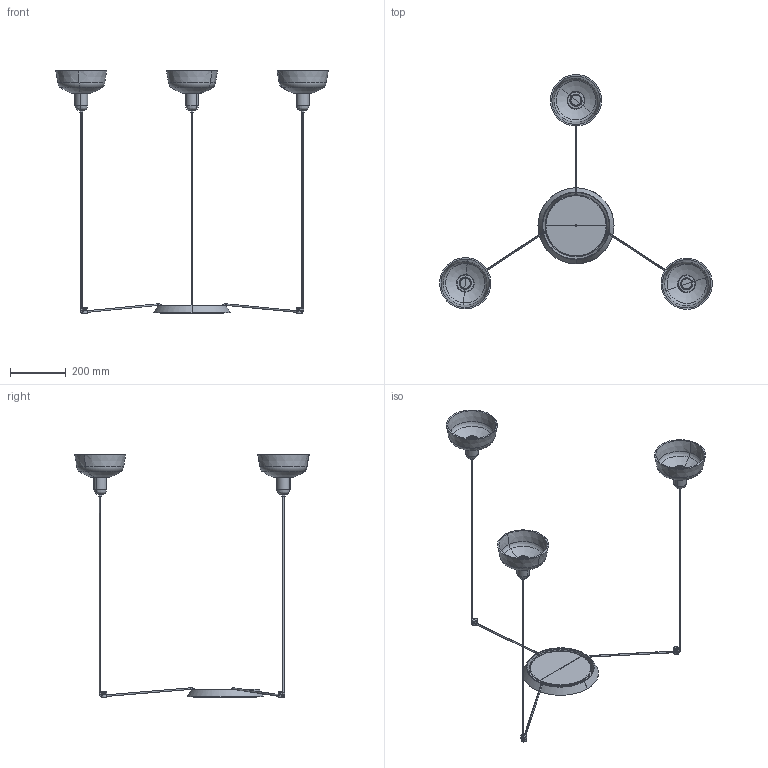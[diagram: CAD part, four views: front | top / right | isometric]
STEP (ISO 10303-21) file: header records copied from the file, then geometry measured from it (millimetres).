
FILE_DESCRIPTION(/* description */ (''),/* implementation_level */ '2;1');
FILE_NAME(/* name */ '20340-116-3L.step',/* time_stamp */ '2024-05-29T15:33:42+02:00',/* author */ ('RenataManzini'),/* organization */ (''),/* preprocessor_version */ 'ST-DEVELOPER v20',/* originating_system */ 'AutoCAD Mechanical',/* authorisation */ '');
FILE_SCHEMA (('AUTOMOTIVE_DESIGN { 1 0 10303 214 3 1 1 }'));
Length unit declared in the file: millimetre
Products named in the file (2): Product; TATAWIN_CAN3 - COLGANTE-535723-_3D_
Assembly tree (1 placements, depth 2):
  Product
    TATAWIN_CAN3 - COLGANTE-535723-_3D_
Bounding box: 979.39 x 843.59 x 871.11 mm (x, y, z)
Volume: 1303920.6 mm3; surface area: 698866.9 mm2
Topology: 29 solids, 29 shells, 571 faces, 1346 edges, 811 vertices
Faces by surface type: cylinder 219, plane 196, torus 78, cone 60, bspline 18
Entity records: 21720 total; most frequent: CARTESIAN_POINT 8886, ORIENTED_EDGE 2674, DIRECTION 2579, EDGE_CURVE 1337, AXIS2_PLACEMENT_3D 1036, VERTEX_POINT 806, EDGE_LOOP 641, FACE_OUTER_BOUND 571
